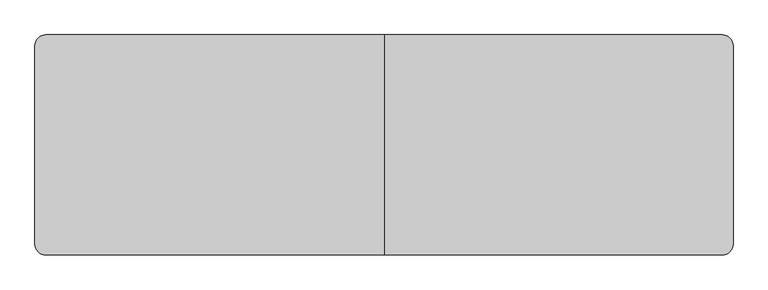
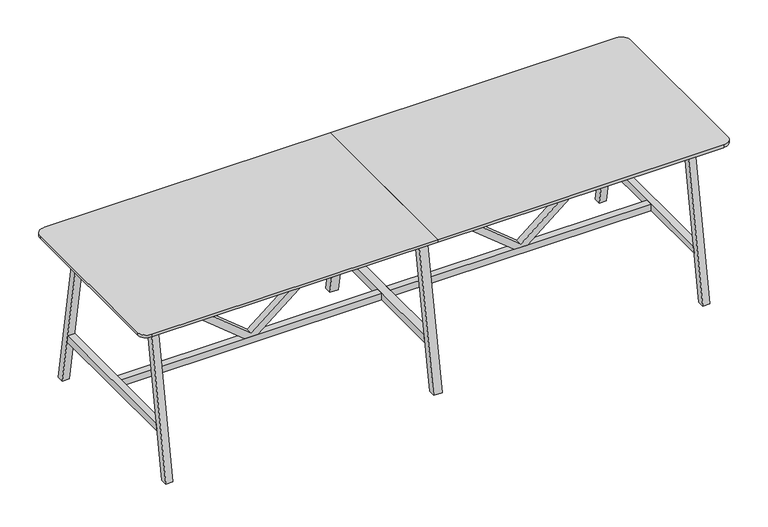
"""IFC4 building model written with IfcOpenShell, lengths in millimetres: furniture geometry, BDG_BossDesign_Tbls_AgentTables6Legs : AGE-HT-6L-3800-1200-3D."""

from ifc_helpers import new_model, si_unit, point, frame, frame_2d, origin, place, context, project, spatial, polyline, circle_curve, trimmed, segment, composite_curve, outline, extrude, source, transform, mapped, element, save


def furniture_95861a6c(model_context):
    return source(origin(), model_context, "Body", "SweptSolid", [
        extrude(outline(polyline([(345.0, 824.0823957), (345.0, 908.4176043), (992.0, 1705.0), (1032.0, 1705.0), (1032.0, 1685.0), (365.0, 866.25), (1032.0, 47.5), (1032.0, 27.5), (992.0, 27.5), (345.0, 824.0823957)])), frame((0.0, -22.5000305, 0.0), z_axis=(0.0, 1.0, 0.0), x_axis=(0.0, 0.0, 1.0)), (0.0, 0.0, 1.0), 45.000061),
        extrude(outline(polyline([(345.0, -824.0823957), (992.0, -27.5), (1032.0, -27.5), (1032.0, -47.5), (365.0, -866.25), (1032.0, -1685.0), (1032.0, -1705.0), (992.0, -1705.0), (345.0, -908.4176043), (345.0, -824.0823957)])), frame((0.0, -22.5000305, 0.0), z_axis=(0.0, 1.0, 0.0), x_axis=(0.0, 0.0, 1.0)), (0.0, 0.0, 1.0), 45.000061),
        extrude(outline(polyline([(600.0, 0.0), (554.9999949, 0.0), (385.5, 970.0), (430.5000051, 970.0), (600.0, 0.0)])), frame((-27.5, 0.0, 0.0), z_axis=(1.0, 0.0, 0.0), x_axis=(0.0, 1.0, 0.0)), (0.0, 0.0, 1.0), 55.0),
        extrude(outline(polyline([(-600.0, 0.0), (-430.5000051, 970.0), (-385.5, 970.0), (-554.9999949, 0.0), (-600.0, 0.0)])), frame((-27.5, 0.0, 0.0), z_axis=(1.0, 0.0, 0.0), x_axis=(0.0, 1.0, 0.0)), (0.0, 0.0, 1.0), 55.0),
        extrude(outline(polyline([(502.5773161, 300.0), (-502.5773161, 300.0), (-494.7139143, 345.0), (494.7139143, 345.0), (502.5773161, 300.0)])), frame((-27.5, 0.0, 0.0), z_axis=(1.0, 0.0, 0.0), x_axis=(0.0, 1.0, 0.0)), (0.0, 0.0, 1.0), 55.0),
        extrude(outline(composite_curve([segment(polyline([(0.0, 600.0), (0.0, -600.0), (-1840.0, -600.0)]), True, "CONTINUOUS"), segment(trimmed(circle_curve(frame_2d((-1840.0, -540.0)), 60.0), [point((-1840.0, -600.0))], [point((-1900.0, -540.0))], False, "CARTESIAN"), True, "CONTINUOUS"), segment(polyline([(-1900.0, -540.0), (-1900.0, 540.0)]), True, "CONTINUOUS"), segment(trimmed(circle_curve(frame_2d((-1840.0, 540.0)), 60.0), [point((-1900.0, 540.0))], [point((-1840.0, 600.0))], False, "CARTESIAN"), True, "CONTINUOUS"), segment(polyline([(-1840.0, 600.0), (0.0, 600.0)]), True, "CONTINUOUS")], self_intersect=False)), frame((0.0, 0.0, 1032.0), z_axis=(0.0, 0.0, 1.0), x_axis=(1.0, 0.0, 0.0)), (0.0, 0.0, 1.0), 18.0),
        extrude(outline(polyline([(-494.7139143, 345.0), (494.7139143, 345.0), (502.5773161, 300.0), (-502.5773161, 300.0), (-494.7139143, 345.0)])), frame((1705.0, 0.0, 0.0), z_axis=(1.0, 0.0, 0.0), x_axis=(0.0, 1.0, 0.0)), (0.0, 0.0, 1.0), 45.0),
        extrude(outline(polyline([(600.0, 0.0), (554.9999949, 0.0), (385.5, 970.0), (430.5000051, 970.0), (600.0, 0.0)])), frame((-1750.0, 0.0, 0.0), z_axis=(1.0, 0.0, 0.0), x_axis=(0.0, 1.0, 0.0)), (0.0, 0.0, 1.0), 45.0),
        extrude(outline(polyline([(-600.0, 0.0), (-430.5000051, 970.0), (-385.5, 970.0), (-554.9999949, 0.0), (-600.0, 0.0)])), frame((-1750.0, 0.0, 0.0), z_axis=(1.0, 0.0, 0.0), x_axis=(0.0, 1.0, 0.0)), (0.0, 0.0, 1.0), 45.0),
        extrude(outline(polyline([(-494.7139143, 345.0), (494.7139143, 345.0), (502.5773161, 300.0), (-502.5773161, 300.0), (-494.7139143, 345.0)])), frame((-1750.0, 0.0, 0.0), z_axis=(1.0, 0.0, 0.0), x_axis=(0.0, 1.0, 0.0)), (0.0, 0.0, 1.0), 45.0),
        extrude(outline(polyline([(-426.6006165, 944.973938), (-404.2770691, 1032.0), (-379.5, 1032.0), (-401.8235474, 944.973938), (-426.6006165, 944.973938)])), frame((-1705.0, 0.0, 0.0), z_axis=(1.0, 0.0, 0.0), x_axis=(0.0, 1.0, 0.0)), (0.0, 0.0, 1.0), 3410.0),
        extrude(outline(polyline([(426.6006165, 944.973938), (401.8235474, 944.973938), (379.5, 1032.0), (404.2770691, 1032.0), (426.6006165, 944.973938)])), frame((-1705.0, 0.0, 0.0), z_axis=(1.0, 0.0, 0.0), x_axis=(0.0, 1.0, 0.0)), (0.0, 0.0, 1.0), 3410.0),
        extrude(outline(polyline([(599.7999878, 0.0), (554.7999827, 0.0), (385.5, 970.0), (430.5000051, 970.0), (599.7999878, 0.0)])), frame((1705.0, 0.0, 0.0), z_axis=(1.0, 0.0, 0.0), x_axis=(0.0, 1.0, 0.0)), (0.0, 0.0, 1.0), 45.0),
        extrude(outline(polyline([(-599.7999878, 0.0), (-430.5000051, 970.0), (-385.5, 970.0), (-554.7999827, 0.0), (-599.7999878, 0.0)])), frame((1705.0, 0.0, 0.0), z_axis=(1.0, 0.0, 0.0), x_axis=(0.0, 1.0, 0.0)), (0.0, 0.0, 1.0), 45.0),
        extrude(outline(polyline([(-27.5, 22.5000305), (-27.5, -22.5000305), (-1705.0, -22.5000305), (-1705.0, 22.5000305), (-27.5, 22.5000305)])), frame((0.0, 0.0, 300.0), z_axis=(0.0, 0.0, 1.0), x_axis=(1.0, 0.0, 0.0)), (0.0, 0.0, 1.0), 45.0),
        extrude(outline(polyline([(27.5, -22.5000305), (27.5, 22.5000305), (1705.0, 22.5000305), (1705.0, -22.5000305), (27.5, -22.5000305)])), frame((0.0, 0.0, 300.0), z_axis=(0.0, 0.0, 1.0), x_axis=(1.0, 0.0, 0.0)), (0.0, 0.0, 1.0), 45.0),
        extrude(outline(composite_curve([segment(trimmed(circle_curve(frame_2d((1840.0, 540.0)), 60.0), [point((1840.0, 600.0))], [point((1900.0, 540.0))], False, "CARTESIAN"), True, "CONTINUOUS"), segment(polyline([(1900.0, 540.0), (1900.0, -540.0)]), True, "CONTINUOUS"), segment(trimmed(circle_curve(frame_2d((1840.0, -540.0)), 60.0), [point((1900.0, -540.0))], [point((1840.0, -600.0))], False, "CARTESIAN"), True, "CONTINUOUS"), segment(polyline([(1840.0, -600.0), (0.0, -600.0), (0.0, 600.0), (1840.0, 600.0)]), True, "CONTINUOUS")], self_intersect=False)), frame((0.0, 0.0, 1032.0), z_axis=(0.0, 0.0, 1.0), x_axis=(1.0, 0.0, 0.0)), (0.0, 0.0, 1.0), 18.0),
    ])


if __name__ == "__main__":
    model = new_model("IFC4")
    model_context = context("Model", 3, world=origin())
    ifc_project = project(units=[si_unit("LENGTHUNIT", "METRE", prefix="MILLI")], contexts=[model_context])
    site = spatial("IfcSite", under=ifc_project)
    building = spatial("IfcBuilding", under=site)
    placement = place(None, origin())
    furniture_shape = furniture_95861a6c(model_context)
    element("IfcFurniture", 1, ObjectType="BDG_BossDesign_Tbls_AgentTables6Legs : AGE-HT-6L-3800-1200-3D", at=placement, inside=building, context=model_context, shape_type="MappedRepresentation", body=[
        mapped(furniture_shape, transform((0.0, 0.0, 0.0), x_axis=(1.0, 0.0, 0.0), y_axis=(0.0, 1.0, 0.0), z_axis=(0.0, 0.0, 1.0))),
    ])
    save(model, "model.ifc")
